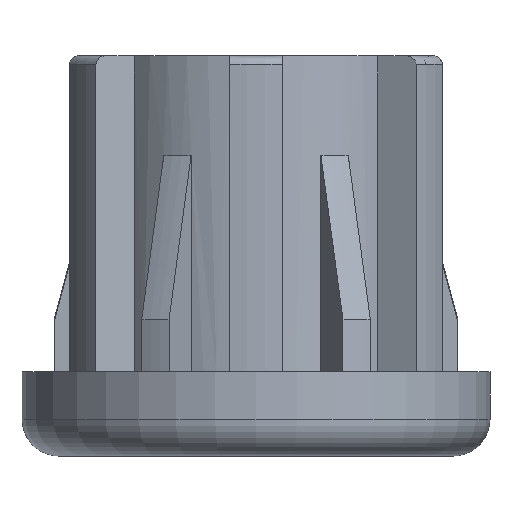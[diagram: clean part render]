
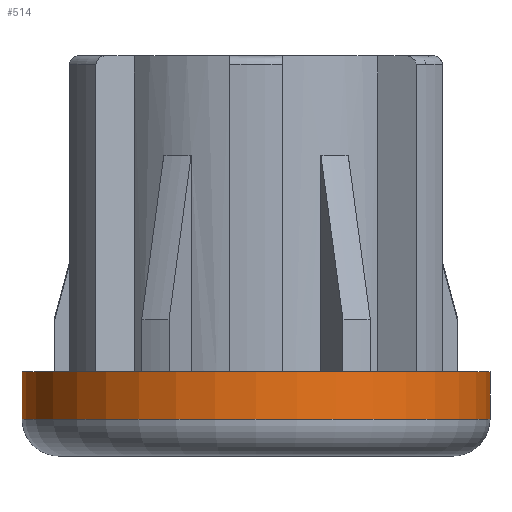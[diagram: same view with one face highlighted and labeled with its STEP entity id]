
A CAD part, front view. The second image highlights one B-rep face of the part: STEP entity #514.
In plain terms, the highlighted cylindrical face has radius 22.225 mm (diameter 44.45 mm), a partial arc.
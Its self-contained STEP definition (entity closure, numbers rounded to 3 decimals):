
#90 = CARTESIAN_POINT ( 'NONE',  ( -22.225, 0., 2.75 ) ) ;
#97 = VERTEX_POINT ( 'NONE', #605 ) ;
#158 = CARTESIAN_POINT ( 'NONE',  ( -22.225, 0., 7.25 ) ) ;
#241 = CARTESIAN_POINT ( 'NONE',  ( 22.225, 0., 5. ) ) ;
#322 = VECTOR ( 'NONE', #2575, 1000. ) ;
#414 = DIRECTION ( 'NONE',  ( 0., 0., 1. ) ) ;
#514 = ADVANCED_FACE ( 'NONE', ( #1878 ), #1981, .T. ) ;
#598 = AXIS2_PLACEMENT_3D ( 'NONE', #2090, #668, #2309 ) ;
#605 = CARTESIAN_POINT ( 'NONE',  ( 22.225, 0., 7.25 ) ) ;
#668 = DIRECTION ( 'NONE',  ( 0., 0., -1. ) ) ;
#861 = VERTEX_POINT ( 'NONE', #1542 ) ;
#990 = CIRCLE ( 'NONE', #2454, 22.225 ) ;
#1008 = LINE ( 'NONE', #2306, #322 ) ;
#1023 = CIRCLE ( 'NONE', #1697, 22.225 ) ;
#1078 = EDGE_CURVE ( 'NONE', #2261, #2600, #1008, .T. ) ;
#1528 = ORIENTED_EDGE ( 'NONE', *, *, #2797, .F. ) ;
#1542 = CARTESIAN_POINT ( 'NONE',  ( 22.225, 0., 2.75 ) ) ;
#1688 = DIRECTION ( 'NONE',  ( 0., 0., 1. ) ) ;
#1697 = AXIS2_PLACEMENT_3D ( 'NONE', #2082, #3017, #2569 ) ;
#1835 = CARTESIAN_POINT ( 'NONE',  ( 0., 0., 7.25 ) ) ;
#1878 = FACE_OUTER_BOUND ( 'NONE', #2783, .T. ) ;
#1915 = EDGE_CURVE ( 'NONE', #861, #97, #2868, .T. ) ;
#1981 = CYLINDRICAL_SURFACE ( 'NONE', #598, 22.225 ) ;
#2082 = CARTESIAN_POINT ( 'NONE',  ( 0., 0., 2.75 ) ) ;
#2090 = CARTESIAN_POINT ( 'NONE',  ( 0., 0., -0.75 ) ) ;
#2194 = ORIENTED_EDGE ( 'NONE', *, *, #2889, .F. ) ;
#2261 = VERTEX_POINT ( 'NONE', #158 ) ;
#2306 = CARTESIAN_POINT ( 'NONE',  ( -22.225, 0., 5. ) ) ;
#2309 = DIRECTION ( 'NONE',  ( 1., 0., 0. ) ) ;
#2320 = DIRECTION ( 'NONE',  ( 1., 0., 0. ) ) ;
#2342 = ORIENTED_EDGE ( 'NONE', *, *, #1078, .T. ) ;
#2454 = AXIS2_PLACEMENT_3D ( 'NONE', #1835, #414, #2320 ) ;
#2569 = DIRECTION ( 'NONE',  ( 1., 0., 0. ) ) ;
#2575 = DIRECTION ( 'NONE',  ( 0., 0., -1. ) ) ;
#2600 = VERTEX_POINT ( 'NONE', #90 ) ;
#2771 = ORIENTED_EDGE ( 'NONE', *, *, #1915, .T. ) ;
#2783 = EDGE_LOOP ( 'NONE', ( #2771, #1528, #2342, #2194 ) ) ;
#2797 = EDGE_CURVE ( 'NONE', #2261, #97, #990, .T. ) ;
#2868 = LINE ( 'NONE', #241, #3058 ) ;
#2889 = EDGE_CURVE ( 'NONE', #861, #2600, #1023, .T. ) ;
#3017 = DIRECTION ( 'NONE',  ( 0., 0., -1. ) ) ;
#3058 = VECTOR ( 'NONE', #1688, 1000. ) ;
